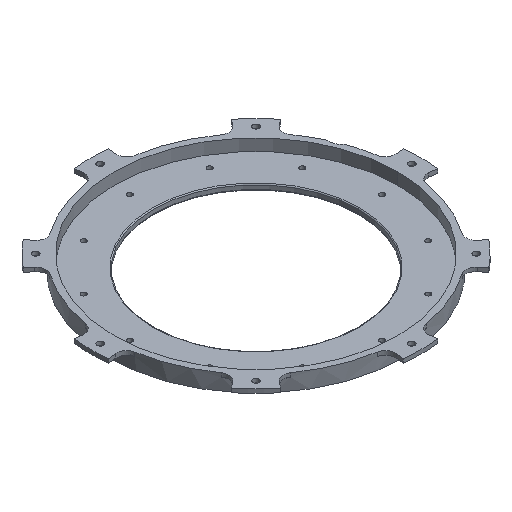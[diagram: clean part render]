
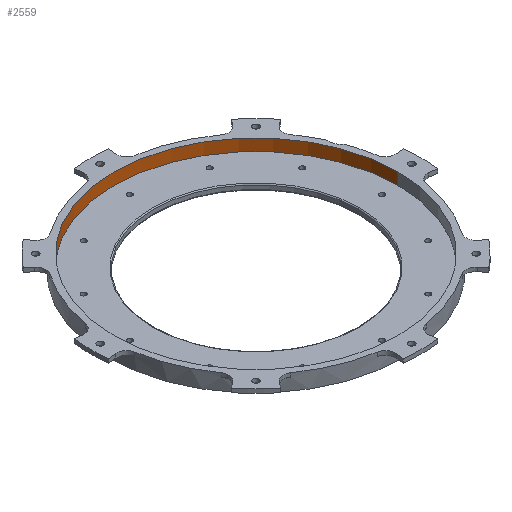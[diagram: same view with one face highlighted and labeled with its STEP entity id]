
A CAD part, isometric view. The second image highlights one B-rep face of the part: STEP entity #2559.
In plain terms, the highlighted cylindrical face has radius 72 mm (diameter 144 mm), a partial arc.
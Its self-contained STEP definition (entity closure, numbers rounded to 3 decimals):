
#11 = DIRECTION ( 'NONE',  ( 0., 0., 1. ) ) ;
#598 = CARTESIAN_POINT ( 'NONE',  ( -72., 0., 13.2 ) ) ;
#649 = EDGE_CURVE ( 'NONE', #3894, #3004, #3916, .T. ) ;
#667 = CARTESIAN_POINT ( 'NONE',  ( 0., 0., 7.2 ) ) ;
#775 = ORIENTED_EDGE ( 'NONE', *, *, #2473, .F. ) ;
#998 = FACE_OUTER_BOUND ( 'NONE', #4192, .T. ) ;
#1124 = CARTESIAN_POINT ( 'NONE',  ( 0., 0., 13.2 ) ) ;
#1244 = DIRECTION ( 'NONE',  ( 0., 0., 1. ) ) ;
#1432 = VECTOR ( 'NONE', #1244, 1000. ) ;
#1612 = DIRECTION ( 'NONE',  ( 1., 0., 0. ) ) ;
#1743 = ORIENTED_EDGE ( 'NONE', *, *, #649, .F. ) ;
#1901 = CIRCLE ( 'NONE', #3857, 72. ) ;
#1910 = CARTESIAN_POINT ( 'NONE',  ( 72., 0., 7.2 ) ) ;
#1982 = EDGE_CURVE ( 'NONE', #3894, #2002, #2532, .T. ) ;
#2002 = VERTEX_POINT ( 'NONE', #2164 ) ;
#2038 = AXIS2_PLACEMENT_3D ( 'NONE', #667, #11, #1612 ) ;
#2164 = CARTESIAN_POINT ( 'NONE',  ( 72., 0., 13.2 ) ) ;
#2232 = LINE ( 'NONE', #3270, #3536 ) ;
#2385 = CYLINDRICAL_SURFACE ( 'NONE', #2038, 72. ) ;
#2428 = DIRECTION ( 'NONE',  ( 0., 0., 1. ) ) ;
#2473 = EDGE_CURVE ( 'NONE', #3004, #3901, #2232, .T. ) ;
#2532 = LINE ( 'NONE', #2800, #1432 ) ;
#2548 = ORIENTED_EDGE ( 'NONE', *, *, #2719, .T. ) ;
#2559 = ADVANCED_FACE ( 'NONE', ( #998 ), #2385, .F. ) ;
#2588 = DIRECTION ( 'NONE',  ( 0., 0., 1. ) ) ;
#2647 = CARTESIAN_POINT ( 'NONE',  ( 0., 0., 7.2 ) ) ;
#2719 = EDGE_CURVE ( 'NONE', #2002, #3901, #1901, .T. ) ;
#2800 = CARTESIAN_POINT ( 'NONE',  ( 72., 0., 7.2 ) ) ;
#3004 = VERTEX_POINT ( 'NONE', #3303 ) ;
#3181 = AXIS2_PLACEMENT_3D ( 'NONE', #2647, #2588, #4185 ) ;
#3270 = CARTESIAN_POINT ( 'NONE',  ( -72., 0., 7.2 ) ) ;
#3303 = CARTESIAN_POINT ( 'NONE',  ( -72., 0., 7.2 ) ) ;
#3416 = ORIENTED_EDGE ( 'NONE', *, *, #1982, .T. ) ;
#3536 = VECTOR ( 'NONE', #3550, 1000. ) ;
#3550 = DIRECTION ( 'NONE',  ( 0., 0., 1. ) ) ;
#3709 = DIRECTION ( 'NONE',  ( 1., 0., 0. ) ) ;
#3857 = AXIS2_PLACEMENT_3D ( 'NONE', #1124, #2428, #3709 ) ;
#3894 = VERTEX_POINT ( 'NONE', #1910 ) ;
#3901 = VERTEX_POINT ( 'NONE', #598 ) ;
#3916 = CIRCLE ( 'NONE', #3181, 72. ) ;
#4185 = DIRECTION ( 'NONE',  ( 1., 0., 0. ) ) ;
#4192 = EDGE_LOOP ( 'NONE', ( #775, #1743, #3416, #2548 ) ) ;
